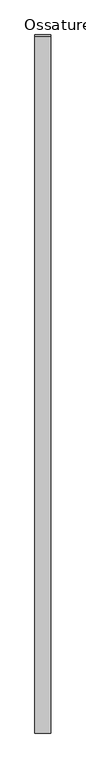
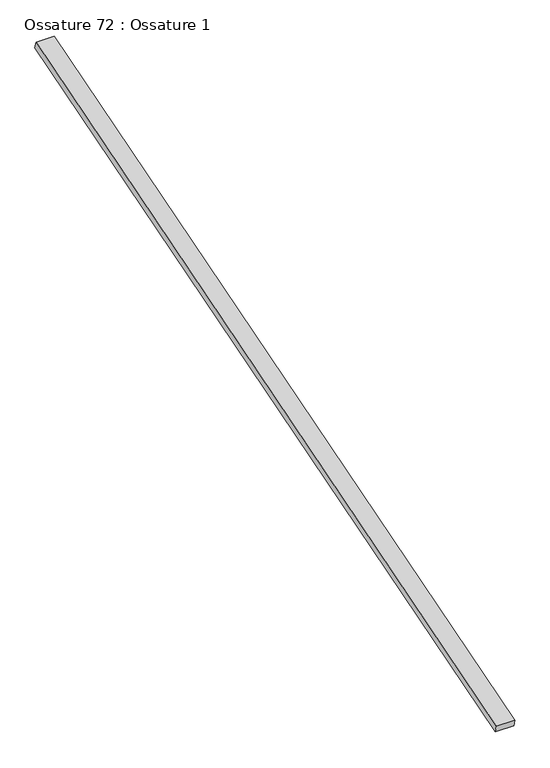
"""IFC4 building model written with IfcOpenShell, lengths in millimetres: beam geometry, Ossature 72 : Ossature 1."""

from ifc_helpers import new_model, si_unit, frame, origin, place, context, project, spatial, polyline, outline, extrude, source, transform, mapped, element, save


def ossature_72_ossature_1_96dd3429(model_context):
    return source(origin(), model_context, "Body", "SweptSolid", [
        extrude(outline(polyline([(0.0, 0.0), (0.0, -4543.0299679), (-100.0, -4543.0299679), (-100.0, 0.0), (0.0, 0.0)])), frame((17437.2466393, -833.3913565, 8153.6336115), z_axis=(0.0, -0.28734788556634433, 0.9578262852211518), x_axis=(-1.0, 0.0, 0.0)), (0.0, 0.0, 1.0), 40.0),
    ])


if __name__ == "__main__":
    model = new_model("IFC4")
    model_context = context("Model", 3, world=origin())
    ifc_project = project(units=[si_unit("LENGTHUNIT", "METRE", prefix="MILLI")], contexts=[model_context])
    site = spatial("IfcSite", under=ifc_project)
    building = spatial("IfcBuilding", under=site)
    placement = place(None, origin())
    ossature_72_ossature_1_shape = ossature_72_ossature_1_96dd3429(model_context)
    element("IfcBeam", 1, ObjectType="Ossature 72 : Ossature 1", at=placement, inside=building, context=model_context, shape_type="MappedRepresentation", body=[
        mapped(ossature_72_ossature_1_shape, transform((0.0, 0.0, 0.0), x_axis=(1.0, 0.0, 0.0), y_axis=(0.0, 1.0, 0.0), z_axis=(0.0, 0.0, 1.0))),
    ])
    save(model, "model.ifc")
